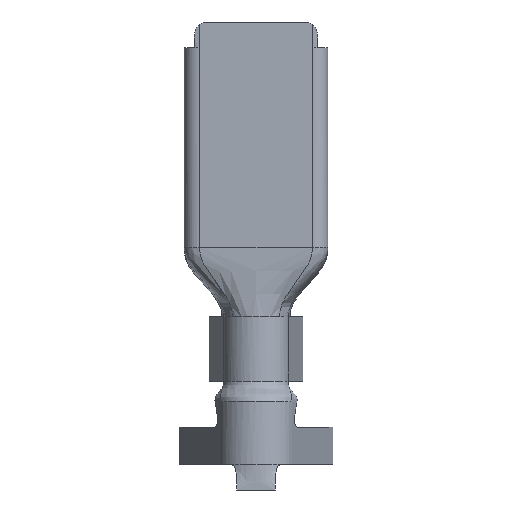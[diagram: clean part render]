
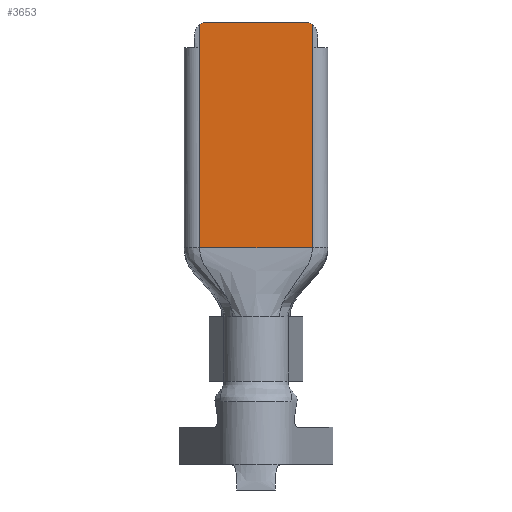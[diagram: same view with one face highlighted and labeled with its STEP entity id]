
A CAD part, front view. The second image highlights one B-rep face of the part: STEP entity #3653.
In plain terms, the highlighted planar face has unit normal (0, -1, 0).
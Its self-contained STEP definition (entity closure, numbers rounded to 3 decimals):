
#1031=CARTESIAN_POINT('',(1.9,0.,0.5));
#1032=DIRECTION('',(0.,1.,0.));
#1033=DIRECTION('',(0.,0.,1.));
#1034=AXIS2_PLACEMENT_3D('',#1031,#1032,#1033);
#1036=CARTESIAN_POINT('',(-1.9,0.,0.5));
#1037=DIRECTION('',(0.,1.,0.));
#1038=DIRECTION('',(-0.6,0.,0.8));
#1039=AXIS2_PLACEMENT_3D('',#1036,#1037,#1038);
#1054=CARTESIAN_POINT('',(2.2,0.,0.));
#1055=CARTESIAN_POINT('',(2.2,0.,
0.3));
#1056=CARTESIAN_POINT('',(2.199,0.,
0.6));
#1057=CARTESIAN_POINT('',(2.2,0.,0.9));
#1059=DIRECTION('',(0.,0.,1.));
#1060=VECTOR('',#1059,7.8);
#1061=CARTESIAN_POINT('',(2.2,0.,-7.8));
#1062=LINE('',#1061,#1060);
#1109=DIRECTION('',(0.,0.,-1.));
#1110=VECTOR('',#1109,7.8);
#1111=CARTESIAN_POINT('',(-2.2,0.,0.));
#1112=LINE('',#1111,#1110);
#1480=CARTESIAN_POINT('',(-2.2,0.,0.9));
#1481=CARTESIAN_POINT('',(-2.199,0.,
0.6));
#1482=CARTESIAN_POINT('',(-2.2,0.,
0.3));
#1483=CARTESIAN_POINT('',(-2.2,0.,0.));
#1490=DIRECTION('',(1.,0.,0.));
#1491=VECTOR('',#1490,4.4);
#1492=CARTESIAN_POINT('',(-2.2,0.,-7.8));
#1493=LINE('',#1492,#1491);
#1504=DIRECTION('',(-1.,0.,0.));
#1505=VECTOR('',#1504,3.8);
#1506=CARTESIAN_POINT('',(1.9,0.,1.));
#1507=LINE('',#1506,#1505);
#1811=CARTESIAN_POINT('',(2.2,0.,-7.8));
#1813=VERTEX_POINT('',#1811);
#1815=CARTESIAN_POINT('',(2.2,0.,0.));
#1816=VERTEX_POINT('',#1815);
#1821=CARTESIAN_POINT('',(1.9,0.,1.));
#1822=CARTESIAN_POINT('',(2.2,0.,0.9));
#1823=VERTEX_POINT('',#1821);
#1824=VERTEX_POINT('',#1822);
#1825=CARTESIAN_POINT('',(-2.2,0.,-7.8));
#1826=VERTEX_POINT('',#1825);
#1827=CARTESIAN_POINT('',(-2.2,0.,0.));
#1828=VERTEX_POINT('',#1827);
#1829=VERTEX_POINT('',#1480);
#1830=CARTESIAN_POINT('',(-1.9,0.,1.));
#1831=VERTEX_POINT('',#1830);
#3632=CARTESIAN_POINT('',(-2.2,0.,0.));
#3633=DIRECTION('',(0.,-1.,0.));
#3634=DIRECTION('',(1.,0.,0.));
#3635=AXIS2_PLACEMENT_3D('',#3632,#3633,#3634);
#3636=PLANE('',#3635);
#3637=ORIENTED_EDGE('',*,*,#2973,.T.);
#3639=ORIENTED_EDGE('',*,*,#3638,.F.);
#3641=ORIENTED_EDGE('',*,*,#3640,.F.);
#3643=ORIENTED_EDGE('',*,*,#3642,.F.);
#3645=ORIENTED_EDGE('',*,*,#3644,.F.);
#3647=ORIENTED_EDGE('',*,*,#3646,.F.);
#3648=ORIENTED_EDGE('',*,*,#3619,.T.);
#3650=ORIENTED_EDGE('',*,*,#3649,.F.);
#3651=EDGE_LOOP('',(#3637,#3639,#3641,#3643,#3645,#3647,#3648,#3650));
#3652=FACE_OUTER_BOUND('',#3651,.F.);
#3653=ADVANCED_FACE('',(#3652),#3636,.T.);
#1035=CIRCLE('',#1034,0.5);
#1040=CIRCLE('',#1039,0.5);
#1058=B_SPLINE_CURVE_WITH_KNOTS('',3,(#1054,#1055,#1056,#1057),.UNSPECIFIED.,
.F.,.F.,(4,4),(0.,1.),.UNSPECIFIED.);
#1484=B_SPLINE_CURVE_WITH_KNOTS('',3,(#1480,#1481,#1482,#1483),.UNSPECIFIED.,
.F.,.F.,(4,4),(0.,1.),.UNSPECIFIED.);
#2973=EDGE_CURVE('',#1823,#1824,#1035,.T.);
#3619=EDGE_CURVE('',#1829,#1831,#1040,.T.);
#3638=EDGE_CURVE('',#1816,#1824,#1058,.T.);
#3640=EDGE_CURVE('',#1813,#1816,#1062,.T.);
#3642=EDGE_CURVE('',#1826,#1813,#1493,.T.);
#3644=EDGE_CURVE('',#1828,#1826,#1112,.T.);
#3646=EDGE_CURVE('',#1829,#1828,#1484,.T.);
#3649=EDGE_CURVE('',#1823,#1831,#1507,.T.);
